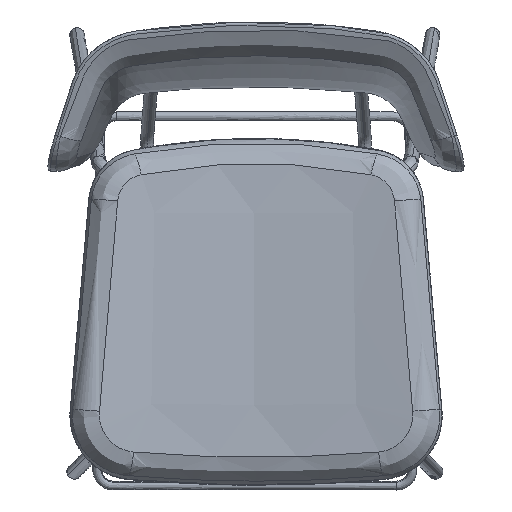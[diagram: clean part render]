
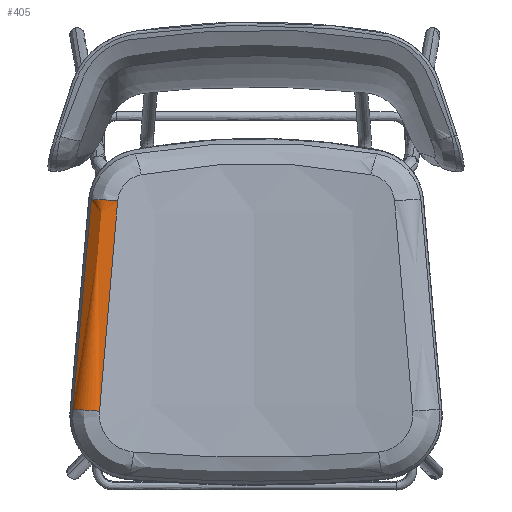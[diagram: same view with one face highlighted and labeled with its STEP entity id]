
A CAD part, top view. The second image highlights one B-rep face of the part: STEP entity #405.
In plain terms, the highlighted free-form (B-spline) face has degree [2, 3] with [3, 8] control points.
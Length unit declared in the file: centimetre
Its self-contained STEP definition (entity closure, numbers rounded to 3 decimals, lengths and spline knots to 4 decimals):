
#57=(
BOUNDED_SURFACE()
B_SPLINE_SURFACE(2,3,((#23789,#23790,#23791,#23792,#23793,#23794,#23795,
#23796),(#23797,#23798,#23799,#23800,#23801,#23802,#23803,#23804),(#23805,
#23806,#23807,#23808,#23809,#23810,#23811,#23812)),.UNSPECIFIED.,.F.,.F.,
 .F.)
B_SPLINE_SURFACE_WITH_KNOTS((3,3),(4,1,1,1,1,4),(0.,1.),(455.5604,
584.748,649.3419,681.6388,697.7872,713.9357),
 .UNSPECIFIED.)
GEOMETRIC_REPRESENTATION_ITEM()
RATIONAL_B_SPLINE_SURFACE(((1.,1.,1.,1.,1.,1.,1.,1.),(0.796,
0.797,0.798,0.8,0.801,0.801,
0.801,0.801),(1.,1.,1.,1.,1.,1.,1.,1.)))
REPRESENTATION_ITEM('')
SURFACE()
);
#150=(
BOUNDED_CURVE()
B_SPLINE_CURVE(2,(#27904,#27905,#27906),.UNSPECIFIED.,.F.,.F.)
B_SPLINE_CURVE_WITH_KNOTS((3,3),(-1.,0.),.UNSPECIFIED.)
CURVE()
GEOMETRIC_REPRESENTATION_ITEM()
RATIONAL_B_SPLINE_CURVE((1.,0.796,1.))
REPRESENTATION_ITEM('')
);
#152=(
BOUNDED_CURVE()
B_SPLINE_CURVE(3,(#28036,#28037,#28038,#28039,#28040,#28041,#28042,#28043),
 .UNSPECIFIED.,.F.,.F.)
B_SPLINE_CURVE_WITH_KNOTS((4,1,1,1,1,4),(-713.9357,-697.7872,
-681.6388,-649.3419,-584.748,-455.5604),
 .UNSPECIFIED.)
CURVE()
GEOMETRIC_REPRESENTATION_ITEM()
RATIONAL_B_SPLINE_CURVE((1.,1.,1.,1.,1.,1.,1.,1.))
REPRESENTATION_ITEM('')
);
#153=(
BOUNDED_CURVE()
B_SPLINE_CURVE(2,(#28044,#28045,#28046),.UNSPECIFIED.,.F.,.F.)
B_SPLINE_CURVE_WITH_KNOTS((3,3),(-1.,0.),.UNSPECIFIED.)
CURVE()
GEOMETRIC_REPRESENTATION_ITEM()
RATIONAL_B_SPLINE_CURVE((1.,0.801,1.))
REPRESENTATION_ITEM('')
);
#154=(
BOUNDED_CURVE()
B_SPLINE_CURVE(3,(#28047,#28048,#28049,#28050,#28051,#28052,#28053,#28054),
 .UNSPECIFIED.,.F.,.F.)
B_SPLINE_CURVE_WITH_KNOTS((4,1,1,1,1,4),(-713.9357,-697.7872,
-681.6388,-649.3419,-584.748,-455.5604),
 .UNSPECIFIED.)
CURVE()
GEOMETRIC_REPRESENTATION_ITEM()
RATIONAL_B_SPLINE_CURVE((1.,1.,1.,1.,1.,1.,1.,1.))
REPRESENTATION_ITEM('')
);
#405=ADVANCED_FACE('',(#518),#57,.T.);
#518=FACE_OUTER_BOUND('',#633,.T.);
#633=EDGE_LOOP('',(#959,#960,#961,#962));
#959=ORIENTED_EDGE('',*,*,#1442,.F.);
#960=ORIENTED_EDGE('',*,*,#1444,.F.);
#961=ORIENTED_EDGE('',*,*,#1445,.T.);
#962=ORIENTED_EDGE('',*,*,#1446,.T.);
#1442=EDGE_CURVE('',#1928,#1933,#150,.T.);
#1444=EDGE_CURVE('',#1927,#1928,#152,.T.);
#1445=EDGE_CURVE('',#1927,#1916,#153,.T.);
#1446=EDGE_CURVE('',#1916,#1933,#154,.T.);
#1916=VERTEX_POINT('',#27312);
#1927=VERTEX_POINT('',#27323);
#1928=VERTEX_POINT('',#27324);
#1933=VERTEX_POINT('',#27329);
#23789=CARTESIAN_POINT('',(-12018.2061,10605.9561,35.5235));
#23790=CARTESIAN_POINT('',(-12014.3937,10648.9641,31.8075));
#23791=CARTESIAN_POINT('',(-12008.6746,10713.4777,26.2582));
#23792=CARTESIAN_POINT('',(-12002.0012,10788.7473,19.8289));
#23793=CARTESIAN_POINT('',(-11998.6643,10826.3829,16.6257));
#23794=CARTESIAN_POINT('',(-11996.7574,10847.8901,14.7984));
#23795=CARTESIAN_POINT('',(-11995.8043,10858.6404,13.886));
#23796=CARTESIAN_POINT('',(-11995.3272,10864.0199,13.43));
#23797=CARTESIAN_POINT('',(-12007.6782,10606.7786,55.9121));
#23798=CARTESIAN_POINT('',(-12003.9065,10649.7796,52.1368));
#23799=CARTESIAN_POINT('',(-11998.2489,10714.2829,46.4985));
#23800=CARTESIAN_POINT('',(-11991.648,10789.5403,39.9646));
#23801=CARTESIAN_POINT('',(-11988.3476,10827.1698,36.7088));
#23802=CARTESIAN_POINT('',(-11986.4614,10848.6734,34.8516));
#23803=CARTESIAN_POINT('',(-11985.5188,10859.4226,33.9243));
#23804=CARTESIAN_POINT('',(-11985.0469,10864.8006,33.4606));
#23805=CARTESIAN_POINT('',(-11985.2989,10604.4,51.3606));
#23806=CARTESIAN_POINT('',(-11981.5809,10647.4144,47.675));
#23807=CARTESIAN_POINT('',(-11976.0048,10711.9381,42.1713));
#23808=CARTESIAN_POINT('',(-11969.501,10787.2194,35.7949));
#23809=CARTESIAN_POINT('',(-11966.2495,10824.861,32.6181));
#23810=CARTESIAN_POINT('',(-11964.3916,10846.3707,30.806));
#23811=CARTESIAN_POINT('',(-11963.4627,10857.1256,29.901));
#23812=CARTESIAN_POINT('',(-11962.9982,10862.5031,29.4488));
#27312=CARTESIAN_POINT('',(-11995.3272,10864.0199,13.43));
#27323=CARTESIAN_POINT('',(-11962.9982,10862.5031,29.4488));
#27324=CARTESIAN_POINT('',(-11985.2989,10604.4,51.3606));
#27329=CARTESIAN_POINT('',(-12018.2061,10605.9561,35.5235));
#27904=CARTESIAN_POINT('',(-11985.2989,10604.4,51.3606));
#27905=CARTESIAN_POINT('',(-12007.6782,10606.7786,55.9121));
#27906=CARTESIAN_POINT('',(-12018.2061,10605.9561,35.5235));
#28036=CARTESIAN_POINT('',(-11962.9982,10862.5031,29.4488));
#28037=CARTESIAN_POINT('',(-11963.4627,10857.1256,29.901));
#28038=CARTESIAN_POINT('',(-11964.3916,10846.3707,30.806));
#28039=CARTESIAN_POINT('',(-11966.2495,10824.861,32.6181));
#28040=CARTESIAN_POINT('',(-11969.501,10787.2194,35.7949));
#28041=CARTESIAN_POINT('',(-11976.0048,10711.9381,42.1713));
#28042=CARTESIAN_POINT('',(-11981.5809,10647.4144,47.675));
#28043=CARTESIAN_POINT('',(-11985.2989,10604.4,51.3606));
#28044=CARTESIAN_POINT('',(-11962.9982,10862.5031,29.4488));
#28045=CARTESIAN_POINT('',(-11985.0469,10864.8006,33.4606));
#28046=CARTESIAN_POINT('',(-11995.3272,10864.0199,13.43));
#28047=CARTESIAN_POINT('',(-11995.3272,10864.0199,13.43));
#28048=CARTESIAN_POINT('',(-11995.8043,10858.6404,13.886));
#28049=CARTESIAN_POINT('',(-11996.7574,10847.8901,14.7984));
#28050=CARTESIAN_POINT('',(-11998.6643,10826.3829,16.6257));
#28051=CARTESIAN_POINT('',(-12002.0012,10788.7473,19.8289));
#28052=CARTESIAN_POINT('',(-12008.6746,10713.4777,26.2582));
#28053=CARTESIAN_POINT('',(-12014.3937,10648.9641,31.8075));
#28054=CARTESIAN_POINT('',(-12018.2061,10605.9561,35.5235));
